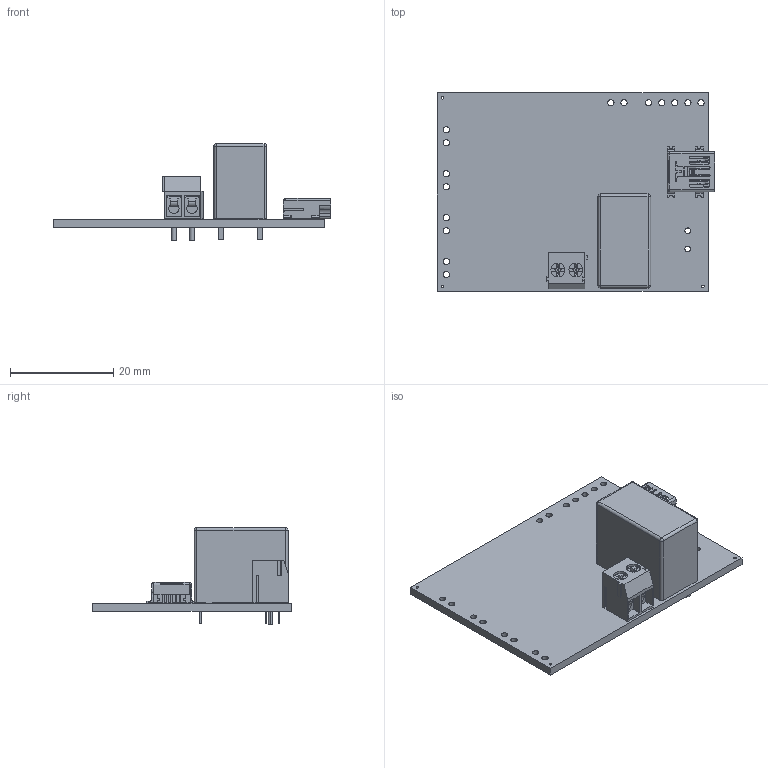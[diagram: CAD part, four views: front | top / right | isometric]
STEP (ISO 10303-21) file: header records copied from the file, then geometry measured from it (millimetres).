
FILE_DESCRIPTION(('KiCad electronic assembly'),'2;1');
FILE_NAME('UsbRelay.step','2019-02-25T23:40:25',('An Author'),( 'A Company'),'Open CASCADE STEP processor 6.9', 'KiCad to STEP converter','Unknown');
FILE_SCHEMA(('AUTOMOTIVE_DESIGN { 1 0 10303 214 1 1 1 1 }'));
Length unit declared in the file: millimetre
Products named in the file (8): Open CASCADE STEP translator 6.9 1; c-1461402-4-b3-3d; SOLID; screw-terminal-3_5mm; USB_Mini-B_Lumberg_2486_01_Horizontal; COMPOUND
Assembly tree (7 placements, depth 3):
  Open CASCADE STEP translator 6.9 1
    c-1461402-4-b3-3d
      SOLID
    screw-terminal-3_5mm
      SOLID
    USB_Mini-B_Lumberg_2486_01_Horizontal
      SOLID
    COMPOUND
Bounding box: 53.75 x 38.5 x 18.8 mm (x, y, z)
Volume: 6407.5 mm3; surface area: 6736.1 mm2
Topology: 4 solids, 4 shells, 689 faces, 2000 edges, 1307 vertices
Faces by surface type: plane 455, cylinder 224, sphere 4, bspline 4, torus 2
Full cylindrical faces by diameter (mm): 0.5 x3, 0.8 x2, 0.9 x2, 1.1 x4, 1.2 x15, 1.3 x4
Entity records: 54249 total; most frequent: CARTESIAN_POINT 10971, DIRECTION 7506, LINE 5028, VECTOR 5028, ORIENTED_EDGE 4000, PCURVE 4000, DEFINITIONAL_REPRESENTATION 4000, EDGE_CURVE 2000
